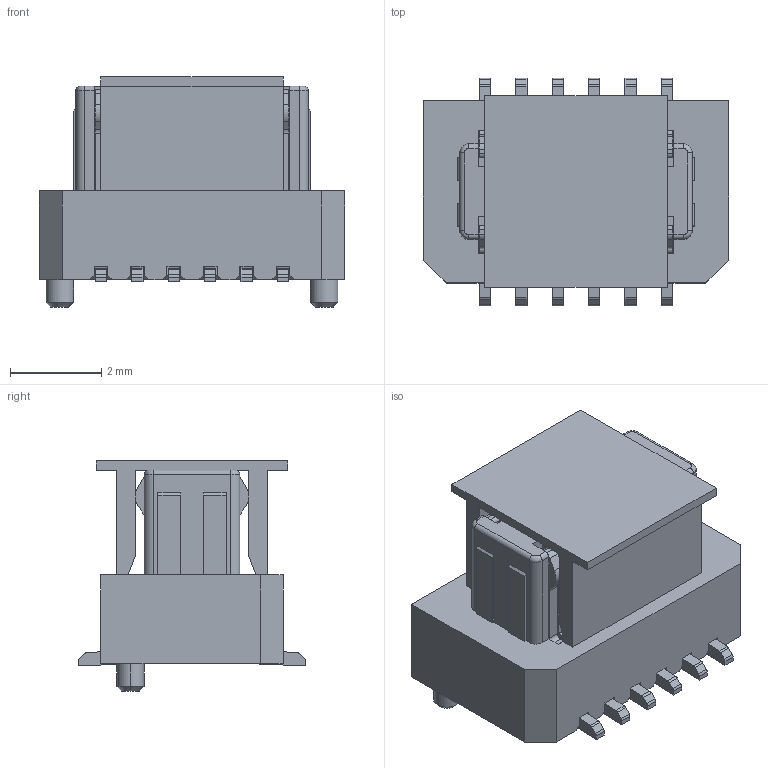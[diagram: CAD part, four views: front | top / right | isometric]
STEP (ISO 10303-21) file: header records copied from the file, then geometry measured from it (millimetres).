
FILE_DESCRIPTION(('CATIA V5 STEP Exchange'),'2;1');
FILE_NAME('F:\黄富鸿\板对板\PBB08B\公座\H4.3\带盖\HC-PBB08B-1-12-M-H4.3-XX-R-P-06 (BTB0.8 单槽 B型公座 立贴 带柱 编带+盖)-HCTL.stp','2026-01-28T06:15:04+00:00',('none'),('none'),'CATIA Version 5 Release 20 GA (IN-10)','CATIA V5 STEP AP203','none');
FILE_SCHEMA(('CONFIG_CONTROL_DESIGN'));
Length unit declared in the file: millimetre
Products named in the file (1): Part1
Bounding box: 6.7 x 5 x 5.05 mm (x, y, z)
Volume: 83.9 mm3; surface area: 394.9 mm2
Topology: 14 solids, 14 shells, 703 faces, 2052 edges, 1356 vertices
Faces by surface type: plane 479, cylinder 216, cone 4, torus 4
Entity records: 21577 total; most frequent: ORIENTED_EDGE 4104, CARTESIAN_POINT 3871, DIRECTION 2976, EDGE_CURVE 2052, VECTOR 1612, LINE 1612, VERTEX_POINT 1356, AXIS2_PLACEMENT_3D 903
